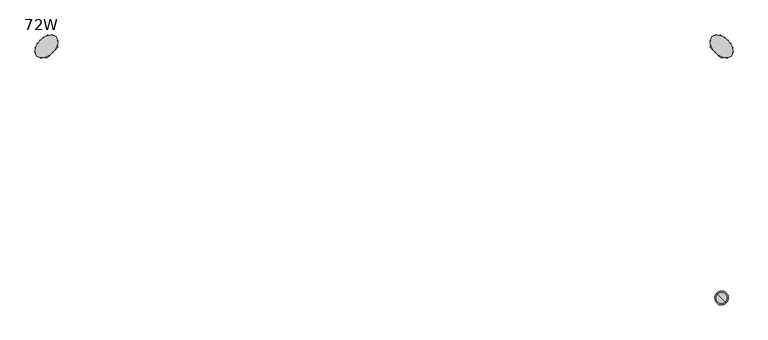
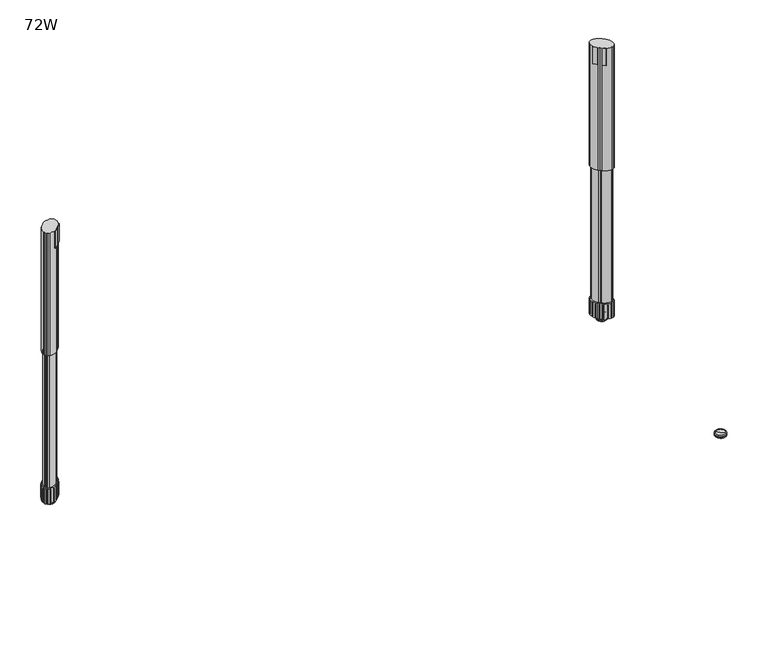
"""IFC4 building model written with IfcOpenShell, lengths in millimetres: furniture geometry, SmithSystem_AM_Table_Education_Interchange_Activity_30D : 72W."""

from ifc_helpers import new_model, si_unit, point, frame, frame_2d, origin, origin_with_axes, place, context, project, spatial, polyline, circle_curve, ellipse_curve, trimmed, segment, composite_curve, outline, extrude, source, transform, mapped, element, save
from ifc_brep_helpers import plane_surface, cylinder_surface, revolved_surface, advanced_brep


def furniture_72w_ccfdfc9f(model_context):
    return source(origin(), model_context, "Body", "SolidModel", [
        advanced_brep(
        [(1787.5381508, 712.8668163, 4.0499223), (1766.6815501, 692.0102156, 4.0499223), (1777.1098504, 702.4385159, 4.0499223), (1789.334202, 714.6628675, 6.5899223), (1764.8854989, 690.2141644, 6.5899223), (1789.334202, 714.6628675, 10.1679691), (1764.8854989, 690.2141644, 10.1679691), (1787.5381508, 712.8668163, 12.7079691), (1766.6815501, 692.0102156, 12.7079691), (1777.1098504, 702.4385159, 12.7079691)],
        [
            (0, 1, circle_curve(frame((1777.1098504, 702.4385159, 4.0499223), z_axis=(0.0, 0.0, -1.0), x_axis=(-0.7071067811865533, -0.7071067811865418, 0.0)), 14.7478438)),
            (1, 2),
            (2, 0),
            (1, 0, circle_curve(frame((1777.1098504, 702.4385159, 4.0499223), z_axis=(0.0, 0.0, -1.0), x_axis=(-0.7071067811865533, -0.7071067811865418, 0.0)), 14.7478438)),
            (3, 4, circle_curve(frame((1777.1098504, 702.4385159, 6.5899223), z_axis=(0.0, 0.0, -1.0), x_axis=(-0.7071067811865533, -0.7071067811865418, 0.0)), 17.2878438)),
            (4, 1, circle_curve(frame((1766.6815501, 692.0102156, 6.5899223), z_axis=(0.7071067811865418, -0.7071067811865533, 0.0), x_axis=(-0.7071067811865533, -0.7071067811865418, 0.0)), 2.54)),
            (0, 3, circle_curve(frame((1787.5381508, 712.8668163, 6.5899223), z_axis=(0.7071067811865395, -0.7071067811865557, 0.0), x_axis=(0.7071067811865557, 0.7071067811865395, 0.0)), 2.54)),
            (4, 3, circle_curve(frame((1777.1098504, 702.4385159, 6.5899223), z_axis=(0.0, 0.0, -1.0), x_axis=(-0.7071067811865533, -0.7071067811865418, 0.0)), 17.2878438)),
            (5, 6, circle_curve(frame((1777.1098504, 702.4385159, 10.1679691), z_axis=(0.0, 0.0, -1.0), x_axis=(-0.7071067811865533, -0.7071067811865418, 0.0)), 17.2878438)),
            (6, 4),
            (3, 5),
            (6, 5, circle_curve(frame((1777.1098504, 702.4385159, 10.1679691), z_axis=(0.0, 0.0, -1.0), x_axis=(-0.7071067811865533, -0.7071067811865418, 0.0)), 17.2878438)),
            (7, 8, circle_curve(frame((1777.1098504, 702.4385159, 12.7079691), z_axis=(0.0, 0.0, -1.0), x_axis=(-0.7071067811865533, -0.7071067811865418, 0.0)), 14.7478438)),
            (8, 6, circle_curve(frame((1766.6815501, 692.0102156, 10.1679691), z_axis=(0.7071067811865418, -0.7071067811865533, 0.0), x_axis=(-0.7071067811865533, -0.7071067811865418, 0.0)), 2.54)),
            (5, 7, circle_curve(frame((1787.5381508, 712.8668163, 10.1679691), z_axis=(0.7071067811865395, -0.7071067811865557, 0.0), x_axis=(0.7071067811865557, 0.7071067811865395, 0.0)), 2.54)),
            (8, 7, circle_curve(frame((1777.1098504, 702.4385159, 12.7079691), z_axis=(0.0, 0.0, -1.0), x_axis=(-0.7071067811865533, -0.7071067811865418, 0.0)), 14.7478438)),
            (9, 8),
            (7, 9),
        ],
        [
            plane_surface(frame((1777.1098504, 702.4385159, 4.0499223), z_axis=(0.0, 0.0, -1.0), x_axis=(-0.7071067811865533, -0.7071067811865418, 0.0))),
            revolved_surface(trimmed(ellipse_curve(frame((1766.6815501, 692.0102156, 6.5899223), z_axis=(-0.7071067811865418, 0.7071067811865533, 0.0), x_axis=(-0.7071067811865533, -0.7071067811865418, 0.0)), 2.54, 2.54), [point((1766.6815501, 692.0102156, 4.0499223))], [point((1764.8854989, 690.2141644, 6.5899223))], True, "CARTESIAN"), (1777.1098504, 702.4385159, 3.1355675), (0.0, 0.0, 1.0)),
            cylinder_surface(frame((1777.1098504, 702.4385159, 3.1355675), z_axis=(0.0, 0.0, 1.0), x_axis=(-0.7071067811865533, -0.7071067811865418, 0.0)), 17.2878438),
            revolved_surface(trimmed(ellipse_curve(frame((1766.6815501, 692.0102156, 10.1679691), z_axis=(-0.7071067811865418, 0.7071067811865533, 0.0), x_axis=(-0.7071067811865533, -0.7071067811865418, 0.0)), 2.54, 2.54), [point((1764.8854989, 690.2141644, 10.1679691))], [point((1766.6815501, 692.0102156, 12.7079691))], True, "CARTESIAN"), (1777.1098504, 702.4385159, 3.1355675), (0.0, 0.0, 1.0)),
            plane_surface(frame((1777.1098504, 702.4385159, 12.7079691), z_axis=(0.0, 0.0, 1.0), x_axis=(-0.7071067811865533, -0.7071067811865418, 0.0))),
        ],
        [
            (0, [[1, 2, 3]]),
            (0, [[4, -3, -2]]),
            (1, [[5, 6, -1, 7]]),
            (1, [[8, -7, -4, -6]]),
            (2, [[9, 10, -5, 11]]),
            (2, [[12, -11, -8, -10]]),
            (3, [[13, 14, -9, 15]]),
            (3, [[16, -15, -12, -14]]),
            (4, [[17, -13, 18]]),
            (4, [[-18, -16, -17]]),
        ],
    ),
        extrude(outline(composite_curve([segment(trimmed(circle_curve(frame_2d((1781.2964298, 713.8093002)), 32.5855406), [point((1758.2549731, 690.7678435))], [point((1748.9537769, 717.7804787))], False, "CARTESIAN"), True, "CONTINUOUS"), segment(trimmed(circle_curve(frame_2d((1768.4817209, 715.3827486)), 19.6745954), [point((1748.9537769, 717.7804787))], [point((1750.3137305, 722.9334989))], False, "CARTESIAN"), True, "CONTINUOUS"), segment(trimmed(circle_curve(frame_2d((1758.5793536, 719.4982452)), 8.9510611), [point((1750.3137305, 722.9334989))], [point((1752.2499976, 725.8276012))], False, "CARTESIAN"), True, "CONTINUOUS"), segment(polyline([(1752.2499976, 725.8276012), (1752.9853814, 726.5629849), (1753.7207652, 727.2983687)]), True, "CONTINUOUS"), segment(trimmed(circle_curve(frame_2d((1760.0501212, 720.9690127)), 8.9510611), [point((1753.7207652, 727.2983687))], [point((1756.6148675, 729.2346359))], False, "CARTESIAN"), True, "CONTINUOUS"), segment(trimmed(circle_curve(frame_2d((1764.1656177, 711.0666455)), 19.6745954), [point((1756.6148675, 729.2346359))], [point((1761.7678877, 730.5945895))], False, "CARTESIAN"), True, "CONTINUOUS"), segment(trimmed(circle_curve(frame_2d((1765.7390661, 698.2519365)), 32.5855406), [point((1761.7678877, 730.5945895))], [point((1788.7805229, 721.2933933))], False, "CARTESIAN"), True, "CONTINUOUS"), segment(polyline([(1788.7805229, 721.2933933), (1792.3726253, 717.7012908), (1795.9647278, 714.1091884)]), True, "CONTINUOUS"), segment(trimmed(circle_curve(frame_2d((1772.923271, 691.0677316)), 32.5855406), [point((1795.9647278, 714.1091884))], [point((1805.265924, 687.0965532))], False, "CARTESIAN"), True, "CONTINUOUS"), segment(trimmed(circle_curve(frame_2d((1785.73798, 689.4942832)), 19.6745954), [point((1805.265924, 687.0965532))], [point((1803.9059704, 681.943533))], False, "CARTESIAN"), True, "CONTINUOUS"), segment(trimmed(circle_curve(frame_2d((1795.6403472, 685.3787867)), 8.9510611), [point((1803.9059704, 681.943533))], [point((1801.9697032, 679.0494307))], False, "CARTESIAN"), True, "CONTINUOUS"), segment(polyline([(1801.9697032, 679.0494307), (1801.2343195, 678.3140469), (1800.4989357, 677.5786631)]), True, "CONTINUOUS"), segment(trimmed(circle_curve(frame_2d((1794.1695797, 683.9080191)), 8.9510611), [point((1800.4989357, 677.5786631))], [point((1797.6048334, 675.6423959))], False, "CARTESIAN"), True, "CONTINUOUS"), segment(trimmed(circle_curve(frame_2d((1790.0540831, 693.8103864)), 19.6745954), [point((1797.6048334, 675.6423959))], [point((1792.4518132, 674.2824424))], False, "CARTESIAN"), True, "CONTINUOUS"), segment(trimmed(circle_curve(frame_2d((1788.4806347, 706.6250953)), 32.5855406), [point((1792.4518132, 674.2824424))], [point((1765.439178, 683.5836386))], False, "CARTESIAN"), True, "CONTINUOUS"), segment(polyline([(1765.439178, 683.5836386), (1761.8470756, 687.175741), (1758.2549731, 690.7678435)]), True, "CONTINUOUS")], self_intersect=False)), frame((0.0, 0.0, 12.7079691), z_axis=(0.0, 0.0, 1.0), x_axis=(1.0, 0.0, 0.0)), (0.0, 0.0, 1.0), 50.791766),
        extrude(outline(composite_curve([segment(trimmed(circle_curve(frame_2d((1777.1098504, 702.4385159)), 15.24), [point((1787.8861578, 691.6622086))], [point((1766.3335431, 713.2148233))], False, "CARTESIAN"), True, "CONTINUOUS"), segment(trimmed(circle_curve(frame_2d((1777.1098504, 702.4385159)), 15.24), [point((1766.3335431, 713.2148233))], [point((1787.8861578, 691.6622086))], False, "CARTESIAN"), True, "CONTINUOUS")], self_intersect=False)), origin_with_axes(), (0.0, 0.0, 1.0), 4.0499223),
        extrude(outline(composite_curve([segment(polyline([(1793.2706509, 716.8032652), (1792.3726253, 717.7012908), (1791.4745997, 718.5993164)]), True, "CONTINUOUS"), segment(trimmed(circle_curve(frame_2d((1792.3726253, 717.7012908)), 1.27), [point((1791.4745997, 718.5993164))], [point((1793.2706509, 716.8032652))], False, "CARTESIAN"), True, "CONTINUOUS")], self_intersect=False)), frame((0.0, 0.0, 16.2275456), z_axis=(0.0, 0.0, 1.0), x_axis=(1.0, 0.0, 0.0)), (0.0, 0.0, 1.0), 43.7457423),
        extrude(outline(composite_curve([segment(polyline([(1800.3099845, 677.4423306), (1801.2080101, 678.3403563), (1802.1060357, 679.2383819)]), True, "CONTINUOUS"), segment(trimmed(circle_curve(frame_2d((1801.2080101, 678.3403563)), 1.27), [point((1802.1060357, 679.2383819))], [point((1800.3099845, 677.4423306))], False, "CARTESIAN"), True, "CONTINUOUS")], self_intersect=False)), frame((0.0, 0.0, 16.2275456), z_axis=(0.0, 0.0, 1.0), x_axis=(1.0, 0.0, 0.0)), (0.0, 0.0, 1.0), 43.7457423),
        extrude(outline(composite_curve([segment(trimmed(circle_curve(frame_2d((1753.0116908, 726.5366756)), 1.27), [point((1752.1136652, 725.63865))], [point((1753.9097164, 727.4347012))], False, "CARTESIAN"), True, "CONTINUOUS"), segment(polyline([(1753.9097164, 727.4347012), (1753.0116908, 726.5366756), (1752.1136652, 725.63865)]), True, "CONTINUOUS")], self_intersect=False)), frame((0.0, 0.0, 16.2275456), z_axis=(0.0, 0.0, 1.0), x_axis=(1.0, 0.0, 0.0)), (0.0, 0.0, 1.0), 43.7457423),
        extrude(outline(composite_curve([segment(trimmed(circle_curve(frame_2d((1762.8779787, 730.6574596)), 1.27), [point((1761.6120338, 730.5560515))], [point((1764.1439236, 730.7588676))], False, "CARTESIAN"), True, "CONTINUOUS"), segment(polyline([(1764.1439236, 730.7588676), (1762.8779787, 730.6574596), (1761.6120338, 730.5560515)]), True, "CONTINUOUS")], self_intersect=False)), frame((0.0, 0.0, 16.2275456), z_axis=(0.0, 0.0, 1.0), x_axis=(1.0, 0.0, 0.0)), (0.0, 0.0, 1.0), 43.7457423),
        extrude(outline(composite_curve([segment(trimmed(circle_curve(frame_2d((1773.9209477, 729.7234059)), 1.27), [point((1772.6909581, 730.039674))], [point((1775.1509373, 729.4071377))], False, "CARTESIAN"), True, "CONTINUOUS"), segment(polyline([(1775.1509373, 729.4071377), (1773.9209477, 729.7234059), (1772.6909581, 730.039674)]), True, "CONTINUOUS")], self_intersect=False)), frame((0.0, 0.0, 16.2275456), z_axis=(0.0, 0.0, 1.0), x_axis=(1.0, 0.0, 0.0)), (0.0, 0.0, 1.0), 43.7457423),
        extrude(outline(composite_curve([segment(trimmed(circle_curve(frame_2d((1784.0770478, 725.1239568)), 1.27), [point((1783.0294057, 725.8418329))], [point((1785.1246899, 724.4060807))], False, "CARTESIAN"), True, "CONTINUOUS"), segment(polyline([(1785.1246899, 724.4060807), (1784.0770478, 725.1239568), (1783.0294057, 725.8418329)]), True, "CONTINUOUS")], self_intersect=False)), frame((0.0, 0.0, 16.2275456), z_axis=(0.0, 0.0, 1.0), x_axis=(1.0, 0.0, 0.0)), (0.0, 0.0, 1.0), 43.7457423),
        extrude(outline(composite_curve([segment(polyline([(1805.227386, 686.9406993), (1805.3287941, 688.2066442), (1805.4302021, 689.4725891)]), True, "CONTINUOUS"), segment(trimmed(circle_curve(frame_2d((1805.3287941, 688.2066442)), 1.27), [point((1805.4302021, 689.4725891))], [point((1805.227386, 686.9406993))], False, "CARTESIAN"), True, "CONTINUOUS")], self_intersect=False)), frame((0.0, 0.0, 16.2275456), z_axis=(0.0, 0.0, 1.0), x_axis=(1.0, 0.0, 0.0)), (0.0, 0.0, 1.0), 43.7457423),
        extrude(outline(composite_curve([segment(polyline([(1804.7110085, 698.0196236), (1804.3947404, 699.2496132), (1804.0784722, 700.4796028)]), True, "CONTINUOUS"), segment(trimmed(circle_curve(frame_2d((1804.3947404, 699.2496132)), 1.27), [point((1804.0784722, 700.4796028))], [point((1804.7110085, 698.0196236))], False, "CARTESIAN"), True, "CONTINUOUS")], self_intersect=False)), frame((0.0, 0.0, 16.2275456), z_axis=(0.0, 0.0, 1.0), x_axis=(1.0, 0.0, 0.0)), (0.0, 0.0, 1.0), 43.7457423),
        extrude(outline(composite_curve([segment(polyline([(1800.5131674, 708.3580712), (1799.7952913, 709.4057133), (1799.0774152, 710.4533554)]), True, "CONTINUOUS"), segment(trimmed(circle_curve(frame_2d((1799.7952913, 709.4057133)), 1.27), [point((1799.0774152, 710.4533554))], [point((1800.5131674, 708.3580712))], False, "CARTESIAN"), True, "CONTINUOUS")], self_intersect=False)), frame((0.0, 0.0, 16.2275456), z_axis=(0.0, 0.0, 1.0), x_axis=(1.0, 0.0, 0.0)), (0.0, 0.0, 1.0), 43.7457423),
        extrude(outline(composite_curve([segment(trimmed(circle_curve(frame_2d((1761.8470756, 687.175741)), 1.27), [point((1762.7451012, 686.2777154))], [point((1760.9490499, 688.0737667))], False, "CARTESIAN"), True, "CONTINUOUS"), segment(polyline([(1760.9490499, 688.0737667), (1761.8470756, 687.175741), (1762.7451012, 686.2777154)]), True, "CONTINUOUS")], self_intersect=False)), frame((0.0, 0.0, 16.2275456), z_axis=(0.0, 0.0, 1.0), x_axis=(1.0, 0.0, 0.0)), (0.0, 0.0, 1.0), 43.7457423),
        extrude(outline(composite_curve([segment(polyline([(1748.9923149, 717.9363325), (1748.8909068, 716.6703877), (1748.7894988, 715.4044428)]), True, "CONTINUOUS"), segment(trimmed(circle_curve(frame_2d((1748.8909068, 716.6703877)), 1.27), [point((1748.7894988, 715.4044428))], [point((1748.9923149, 717.9363325))], False, "CARTESIAN"), True, "CONTINUOUS")], self_intersect=False)), frame((0.0, 0.0, 16.2275456), z_axis=(0.0, 0.0, 1.0), x_axis=(1.0, 0.0, 0.0)), (0.0, 0.0, 1.0), 43.7457423),
        extrude(outline(composite_curve([segment(polyline([(1749.5086924, 706.8574083), (1749.8249605, 705.6274187), (1750.1412287, 704.397429)]), True, "CONTINUOUS"), segment(trimmed(circle_curve(frame_2d((1749.8249605, 705.6274187)), 1.27), [point((1750.1412287, 704.397429))], [point((1749.5086924, 706.8574083))], False, "CARTESIAN"), True, "CONTINUOUS")], self_intersect=False)), frame((0.0, 0.0, 16.2275456), z_axis=(0.0, 0.0, 1.0), x_axis=(1.0, 0.0, 0.0)), (0.0, 0.0, 1.0), 43.7457423),
        extrude(outline(composite_curve([segment(polyline([(1753.7065335, 696.5189606), (1754.4244096, 695.4713185), (1755.1422857, 694.4236765)]), True, "CONTINUOUS"), segment(trimmed(circle_curve(frame_2d((1754.4244096, 695.4713185)), 1.27), [point((1755.1422857, 694.4236765))], [point((1753.7065335, 696.5189606))], False, "CARTESIAN"), True, "CONTINUOUS")], self_intersect=False)), frame((0.0, 0.0, 16.2275456), z_axis=(0.0, 0.0, 1.0), x_axis=(1.0, 0.0, 0.0)), (0.0, 0.0, 1.0), 43.7457423),
        extrude(outline(composite_curve([segment(trimmed(circle_curve(frame_2d((1791.3417222, 674.2195723)), 1.27), [point((1792.607667, 674.3209803))], [point((1790.0757773, 674.1181643))], False, "CARTESIAN"), True, "CONTINUOUS"), segment(polyline([(1790.0757773, 674.1181643), (1791.3417222, 674.2195723), (1792.607667, 674.3209803)]), True, "CONTINUOUS")], self_intersect=False)), frame((0.0, 0.0, 16.2275456), z_axis=(0.0, 0.0, 1.0), x_axis=(1.0, 0.0, 0.0)), (0.0, 0.0, 1.0), 43.7457423),
        extrude(outline(composite_curve([segment(trimmed(circle_curve(frame_2d((1780.2987532, 675.153626)), 1.27), [point((1781.5287428, 674.8373578))], [point((1779.0687635, 675.4698941))], False, "CARTESIAN"), True, "CONTINUOUS"), segment(polyline([(1779.0687635, 675.4698941), (1780.2987532, 675.153626), (1781.5287428, 674.8373578)]), True, "CONTINUOUS")], self_intersect=False)), frame((0.0, 0.0, 16.2275456), z_axis=(0.0, 0.0, 1.0), x_axis=(1.0, 0.0, 0.0)), (0.0, 0.0, 1.0), 43.7457423),
        extrude(outline(composite_curve([segment(trimmed(circle_curve(frame_2d((1770.1426531, 679.7530751)), 1.27), [point((1771.1902951, 679.035199))], [point((1769.095011, 680.4709511))], False, "CARTESIAN"), True, "CONTINUOUS"), segment(polyline([(1769.095011, 680.4709511), (1770.1426531, 679.7530751), (1771.1902951, 679.035199)]), True, "CONTINUOUS")], self_intersect=False)), frame((0.0, 0.0, 16.2275456), z_axis=(0.0, 0.0, 1.0), x_axis=(1.0, 0.0, 0.0)), (0.0, 0.0, 1.0), 43.7457423),
        extrude(outline(composite_curve([segment(polyline([(1768.1332548, 686.2777154), (1764.5411524, 689.8698179), (1760.9490499, 693.4619203)]), True, "CONTINUOUS"), segment(trimmed(circle_curve(frame_2d((1781.2964298, 713.8093002)), 28.7755406), [point((1760.9490499, 693.4619203))], [point((1752.7353777, 717.3161565))], False, "CARTESIAN"), True, "CONTINUOUS"), segment(trimmed(circle_curve(frame_2d((1768.4817209, 715.3827486)), 15.8645954), [point((1752.7353777, 717.3161565))], [point((1753.8319753, 721.4712905))], False, "CARTESIAN"), True, "CONTINUOUS"), segment(trimmed(circle_curve(frame_2d((1758.5793536, 719.4982452)), 5.1410611), [point((1753.8319753, 721.4712905))], [point((1754.9440745, 723.1335243))], False, "CARTESIAN"), True, "CONTINUOUS"), segment(polyline([(1754.9440745, 723.1335243), (1755.6794583, 723.8689081), (1756.414842, 724.6042919)]), True, "CONTINUOUS"), segment(trimmed(circle_curve(frame_2d((1760.0501212, 720.9690127)), 5.1410611), [point((1756.414842, 724.6042919))], [point((1758.0770759, 725.7163911))], False, "CARTESIAN"), True, "CONTINUOUS"), segment(trimmed(circle_curve(frame_2d((1764.1656177, 711.0666455)), 15.8645954), [point((1758.0770759, 725.7163911))], [point((1762.2322099, 726.8129886))], False, "CARTESIAN"), True, "CONTINUOUS"), segment(trimmed(circle_curve(frame_2d((1765.7390661, 698.2519365)), 28.7755406), [point((1762.2322099, 726.8129886))], [point((1786.086446, 718.5993164))], False, "CARTESIAN"), True, "CONTINUOUS"), segment(polyline([(1786.086446, 718.5993164), (1789.6785485, 715.007214), (1793.2706509, 711.4151115)]), True, "CONTINUOUS"), segment(trimmed(circle_curve(frame_2d((1772.923271, 691.0677316)), 28.7755406), [point((1793.2706509, 711.4151115))], [point((1801.4843231, 687.5608754))], False, "CARTESIAN"), True, "CONTINUOUS"), segment(trimmed(circle_curve(frame_2d((1785.73798, 689.4942832)), 15.8645954), [point((1801.4843231, 687.5608754))], [point((1800.3877256, 683.4057414))], False, "CARTESIAN"), True, "CONTINUOUS"), segment(trimmed(circle_curve(frame_2d((1795.6403472, 685.3787867)), 5.1410611), [point((1800.3877256, 683.4057414))], [point((1799.2756264, 681.7435075))], False, "CARTESIAN"), True, "CONTINUOUS"), segment(polyline([(1799.2756264, 681.7435075), (1798.5402426, 681.0081238), (1797.8048588, 680.27274)]), True, "CONTINUOUS"), segment(trimmed(circle_curve(frame_2d((1794.1695797, 683.9080191)), 5.1410611), [point((1797.8048588, 680.27274))], [point((1796.142625, 679.1606408))], False, "CARTESIAN"), True, "CONTINUOUS"), segment(trimmed(circle_curve(frame_2d((1790.0540831, 693.8103864)), 15.8645954), [point((1796.142625, 679.1606408))], [point((1791.987491, 678.0640432))], False, "CARTESIAN"), True, "CONTINUOUS"), segment(trimmed(circle_curve(frame_2d((1788.4806347, 706.6250953)), 28.7755406), [point((1791.987491, 678.0640432))], [point((1768.1332548, 686.2777154))], False, "CARTESIAN"), True, "CONTINUOUS")], self_intersect=False)), frame((0.0, 0.0, 63.4997351), z_axis=(0.0, 0.0, 1.0), x_axis=(1.0, 0.0, 0.0)), (0.0, 0.0, 1.0), 440.4486802),
        extrude(outline(composite_curve([segment(polyline([(1788.7805229, 721.2933933), (1792.3726253, 717.7012908), (1795.9647278, 714.1091884)]), True, "CONTINUOUS"), segment(trimmed(circle_curve(frame_2d((1772.923271, 691.0677316)), 32.5855406), [point((1795.9647278, 714.1091884))], [point((1805.265924, 687.0965532))], False, "CARTESIAN"), True, "CONTINUOUS"), segment(trimmed(circle_curve(frame_2d((1785.73798, 689.4942832)), 19.6745954), [point((1805.265924, 687.0965532))], [point((1803.9059704, 681.943533))], False, "CARTESIAN"), True, "CONTINUOUS"), segment(trimmed(circle_curve(frame_2d((1795.6403472, 685.3787867)), 8.9510611), [point((1803.9059704, 681.943533))], [point((1801.9697032, 679.0494307))], False, "CARTESIAN"), True, "CONTINUOUS"), segment(polyline([(1801.9697032, 679.0494307), (1801.2343195, 678.3140469), (1800.4989357, 677.5786631)]), True, "CONTINUOUS"), segment(trimmed(circle_curve(frame_2d((1794.1695797, 683.9080191)), 8.9510611), [point((1800.4989357, 677.5786631))], [point((1797.6048334, 675.6423959))], False, "CARTESIAN"), True, "CONTINUOUS"), segment(trimmed(circle_curve(frame_2d((1790.0540831, 693.8103864)), 19.6745954), [point((1797.6048334, 675.6423959))], [point((1792.4518132, 674.2824424))], False, "CARTESIAN"), True, "CONTINUOUS"), segment(trimmed(circle_curve(frame_2d((1788.4806347, 706.6250953)), 32.5855406), [point((1792.4518132, 674.2824424))], [point((1765.439178, 683.5836386))], False, "CARTESIAN"), True, "CONTINUOUS"), segment(polyline([(1765.439178, 683.5836386), (1761.8470756, 687.175741), (1758.2549731, 690.7678435)]), True, "CONTINUOUS"), segment(trimmed(circle_curve(frame_2d((1781.2964298, 713.8093002)), 32.5855406), [point((1758.2549731, 690.7678435))], [point((1748.9537769, 717.7804787))], False, "CARTESIAN"), True, "CONTINUOUS"), segment(trimmed(circle_curve(frame_2d((1768.4817209, 715.3827486)), 19.6745954), [point((1748.9537769, 717.7804787))], [point((1750.3137305, 722.9334989))], False, "CARTESIAN"), True, "CONTINUOUS"), segment(trimmed(circle_curve(frame_2d((1758.5793536, 719.4982452)), 8.9510611), [point((1750.3137305, 722.9334989))], [point((1752.2499976, 725.8276012))], False, "CARTESIAN"), True, "CONTINUOUS"), segment(polyline([(1752.2499976, 725.8276012), (1752.9853814, 726.5629849), (1753.7207652, 727.2983687)]), True, "CONTINUOUS"), segment(trimmed(circle_curve(frame_2d((1760.0501212, 720.9690127)), 8.9510611), [point((1753.7207652, 727.2983687))], [point((1756.6148675, 729.2346359))], False, "CARTESIAN"), True, "CONTINUOUS"), segment(trimmed(circle_curve(frame_2d((1764.1656177, 711.0666455)), 19.6745954), [point((1756.6148675, 729.2346359))], [point((1761.7678877, 730.5945895))], False, "CARTESIAN"), True, "CONTINUOUS"), segment(trimmed(circle_curve(frame_2d((1765.7390661, 698.2519365)), 32.5855406), [point((1761.7678877, 730.5945895))], [point((1788.7805229, 721.2933933))], False, "CARTESIAN"), True, "CONTINUOUS")], self_intersect=False)), frame((0.0, 0.0, 503.9484153), z_axis=(0.0, 0.0, 1.0), x_axis=(1.0, 0.0, 0.0)), (0.0, 0.0, 1.0), 405.2764888),
        extrude(outline(polyline([(1778.406676, 676.8390473), (1775.0618157, 673.4941871), (1748.2201876, 700.3358152), (1751.5650478, 703.6806755), (1778.406676, 676.8390473)])), frame((0.0, 0.0, 853.198382), z_axis=(0.0, 0.0, 1.0), x_axis=(1.0, 0.0, 0.0)), (0.0, 0.0, 1.0), 56.0265221),
        advanced_brep(
        [(40.9483, 712.8668163, 4.0499223), (51.3766004, 702.4385159, 4.0499223), (61.8049007, 692.0102156, 4.0499223), (39.1522488, 714.6628675, 6.5899223), (63.6009519, 690.2141644, 6.5899223), (39.1522488, 714.6628675, 10.1679691), (63.6009519, 690.2141644, 10.1679691), (40.9483, 712.8668163, 12.7079691), (61.8049007, 692.0102156, 12.7079691), (51.3766004, 702.4385159, 12.7079691)],
        [
            (0, 1),
            (1, 2),
            (2, 0, circle_curve(frame((51.3766004, 702.4385159, 4.0499223), z_axis=(0.0, 0.0, -1.0), x_axis=(0.7071067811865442, -0.7071067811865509, 0.0)), 14.7478438)),
            (0, 2, circle_curve(frame((51.3766004, 702.4385159, 4.0499223), z_axis=(0.0, 0.0, -1.0), x_axis=(0.7071067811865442, -0.7071067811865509, 0.0)), 14.7478438)),
            (3, 0, circle_curve(frame((40.9483, 712.8668163, 6.5899223), z_axis=(-0.7071067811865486, -0.7071067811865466, 0.0), x_axis=(-0.7071067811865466, 0.7071067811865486, 0.0)), 2.54)),
            (2, 4, circle_curve(frame((61.8049007, 692.0102156, 6.5899223), z_axis=(-0.7071067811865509, -0.7071067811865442, 0.0), x_axis=(0.7071067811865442, -0.7071067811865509, 0.0)), 2.54)),
            (4, 3, circle_curve(frame((51.3766004, 702.4385159, 6.5899223), z_axis=(0.0, 0.0, -1.0), x_axis=(0.7071067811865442, -0.7071067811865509, 0.0)), 17.2878438)),
            (3, 4, circle_curve(frame((51.3766004, 702.4385159, 6.5899223), z_axis=(0.0, 0.0, -1.0), x_axis=(0.7071067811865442, -0.7071067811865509, 0.0)), 17.2878438)),
            (5, 3),
            (4, 6),
            (6, 5, circle_curve(frame((51.3766004, 702.4385159, 10.1679691), z_axis=(0.0, 0.0, -1.0), x_axis=(0.7071067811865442, -0.7071067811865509, 0.0)), 17.2878438)),
            (5, 6, circle_curve(frame((51.3766004, 702.4385159, 10.1679691), z_axis=(0.0, 0.0, -1.0), x_axis=(0.7071067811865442, -0.7071067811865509, 0.0)), 17.2878438)),
            (7, 5, circle_curve(frame((40.9483, 712.8668163, 10.1679691), z_axis=(-0.7071067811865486, -0.7071067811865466, 0.0), x_axis=(-0.7071067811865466, 0.7071067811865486, 0.0)), 2.54)),
            (6, 8, circle_curve(frame((61.8049007, 692.0102156, 10.1679691), z_axis=(-0.7071067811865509, -0.7071067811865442, 0.0), x_axis=(0.7071067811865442, -0.7071067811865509, 0.0)), 2.54)),
            (8, 7, circle_curve(frame((51.3766004, 702.4385159, 12.7079691), z_axis=(0.0, 0.0, -1.0), x_axis=(0.7071067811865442, -0.7071067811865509, 0.0)), 14.7478438)),
            (7, 8, circle_curve(frame((51.3766004, 702.4385159, 12.7079691), z_axis=(0.0, 0.0, -1.0), x_axis=(0.7071067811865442, -0.7071067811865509, 0.0)), 14.7478438)),
            (9, 7),
            (8, 9),
        ],
        [
            plane_surface(frame((51.3766004, 702.4385159, 4.0499223), z_axis=(0.0, 0.0, -1.0), x_axis=(0.7071067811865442, -0.7071067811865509, 0.0))),
            revolved_surface(trimmed(ellipse_curve(frame((61.8049007, 692.0102156, 6.5899223), z_axis=(-0.7071067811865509, -0.7071067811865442, 0.0), x_axis=(0.7071067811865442, -0.7071067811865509, 0.0)), 2.54, 2.54), [point((61.8049007, 692.0102156, 4.0499223))], [point((63.6009519, 690.2141644, 6.5899223))], True, "CARTESIAN"), (51.3766004, 702.4385159, 3.1355675), (0.0, 0.0, 1.0)),
            cylinder_surface(frame((51.3766004, 702.4385159, 3.1355675), z_axis=(0.0, 0.0, 1.0), x_axis=(0.7071067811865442, -0.7071067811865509, 0.0)), 17.2878438),
            revolved_surface(trimmed(ellipse_curve(frame((61.8049007, 692.0102156, 10.1679691), z_axis=(-0.7071067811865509, -0.7071067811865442, 0.0), x_axis=(0.7071067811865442, -0.7071067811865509, 0.0)), 2.54, 2.54), [point((63.6009519, 690.2141644, 10.1679691))], [point((61.8049007, 692.0102156, 12.7079691))], True, "CARTESIAN"), (51.3766004, 702.4385159, 3.1355675), (0.0, 0.0, 1.0)),
            plane_surface(frame((51.3766004, 702.4385159, 12.7079691), z_axis=(0.0, 0.0, 1.0), x_axis=(0.7071067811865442, -0.7071067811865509, 0.0))),
        ],
        [
            (0, [[1, 2, 3]]),
            (0, [[-2, -1, 4]]),
            (1, [[5, -3, 6, 7]]),
            (1, [[-6, -4, -5, 8]]),
            (2, [[9, -7, 10, 11]]),
            (2, [[-10, -8, -9, 12]]),
            (3, [[13, -11, 14, 15]]),
            (3, [[-14, -12, -13, 16]]),
            (4, [[17, -15, 18]]),
            (4, [[-18, -16, -17]]),
        ],
    ),
        extrude(outline(composite_curve([segment(polyline([(70.2314777, 690.7678435), (66.6393752, 687.175741), (63.0472728, 683.5836386)]), True, "CONTINUOUS"), segment(trimmed(circle_curve(frame_2d((40.0058161, 706.6250953)), 32.5855406), [point((63.0472728, 683.5836386))], [point((36.0346376, 674.2824424))], False, "CARTESIAN"), True, "CONTINUOUS"), segment(trimmed(circle_curve(frame_2d((38.4323677, 693.8103864)), 19.6745954), [point((36.0346376, 674.2824424))], [point((30.8816174, 675.6423959))], False, "CARTESIAN"), True, "CONTINUOUS"), segment(trimmed(circle_curve(frame_2d((34.3168711, 683.9080191)), 8.9510611), [point((30.8816174, 675.6423959))], [point((27.9875151, 677.5786631))], False, "CARTESIAN"), True, "CONTINUOUS"), segment(polyline([(27.9875151, 677.5786631), (27.2521313, 678.3140469), (26.5167476, 679.0494307)]), True, "CONTINUOUS"), segment(trimmed(circle_curve(frame_2d((32.8461036, 685.3787867)), 8.9510611), [point((26.5167476, 679.0494307))], [point((24.5804804, 681.943533))], False, "CARTESIAN"), True, "CONTINUOUS"), segment(trimmed(circle_curve(frame_2d((42.7484708, 689.4942832)), 19.6745954), [point((24.5804804, 681.943533))], [point((23.2205268, 687.0965532))], False, "CARTESIAN"), True, "CONTINUOUS"), segment(trimmed(circle_curve(frame_2d((55.5631798, 691.0677316)), 32.5855406), [point((23.2205268, 687.0965532))], [point((32.521723, 714.1091884))], False, "CARTESIAN"), True, "CONTINUOUS"), segment(polyline([(32.521723, 714.1091884), (36.1138255, 717.7012908), (39.7059279, 721.2933933)]), True, "CONTINUOUS"), segment(trimmed(circle_curve(frame_2d((62.7473847, 698.2519365)), 32.5855406), [point((39.7059279, 721.2933933))], [point((66.7185631, 730.5945895))], False, "CARTESIAN"), True, "CONTINUOUS"), segment(trimmed(circle_curve(frame_2d((64.3208331, 711.0666455)), 19.6745954), [point((66.7185631, 730.5945895))], [point((71.8715833, 729.2346359))], False, "CARTESIAN"), True, "CONTINUOUS"), segment(trimmed(circle_curve(frame_2d((68.4363296, 720.9690127)), 8.9510611), [point((71.8715833, 729.2346359))], [point((74.7656856, 727.2983687))], False, "CARTESIAN"), True, "CONTINUOUS"), segment(polyline([(74.7656856, 727.2983687), (75.5010694, 726.5629849), (76.2364532, 725.8276012)]), True, "CONTINUOUS"), segment(trimmed(circle_curve(frame_2d((69.9070972, 719.4982452)), 8.9510611), [point((76.2364532, 725.8276012))], [point((78.1727203, 722.9334989))], False, "CARTESIAN"), True, "CONTINUOUS"), segment(trimmed(circle_curve(frame_2d((60.0047299, 715.3827486)), 19.6745954), [point((78.1727203, 722.9334989))], [point((79.5326739, 717.7804787))], False, "CARTESIAN"), True, "CONTINUOUS"), segment(trimmed(circle_curve(frame_2d((47.190021, 713.8093002)), 32.5855406), [point((79.5326739, 717.7804787))], [point((70.2314777, 690.7678435))], False, "CARTESIAN"), True, "CONTINUOUS")], self_intersect=False)), frame((0.0, 0.0, 12.7079691), z_axis=(0.0, 0.0, 1.0), x_axis=(1.0, 0.0, 0.0)), (0.0, 0.0, 1.0), 50.791766),
        extrude(outline(composite_curve([segment(trimmed(circle_curve(frame_2d((51.3766004, 702.4385159)), 15.24), [point((40.600293, 691.6622086))], [point((62.1529077, 713.2148233))], False, "CARTESIAN"), True, "CONTINUOUS"), segment(trimmed(circle_curve(frame_2d((51.3766004, 702.4385159)), 15.24), [point((62.1529077, 713.2148233))], [point((40.600293, 691.6622086))], False, "CARTESIAN"), True, "CONTINUOUS")], self_intersect=False)), origin_with_axes(), (0.0, 0.0, 1.0), 4.0499223),
        extrude(outline(composite_curve([segment(trimmed(circle_curve(frame_2d((36.1138255, 717.7012908)), 1.27), [point((35.2157999, 716.8032652))], [point((37.0118511, 718.5993164))], False, "CARTESIAN"), True, "CONTINUOUS"), segment(polyline([(37.0118511, 718.5993164), (36.1138255, 717.7012908), (35.2157999, 716.8032652)]), True, "CONTINUOUS")], self_intersect=False)), frame((0.0, 0.0, 16.2275456), z_axis=(0.0, 0.0, 1.0), x_axis=(1.0, 0.0, 0.0)), (0.0, 0.0, 1.0), 43.7457423),
        extrude(outline(composite_curve([segment(trimmed(circle_curve(frame_2d((27.2784407, 678.3403563)), 1.27), [point((28.1764663, 677.4423306))], [point((26.3804151, 679.2383819))], False, "CARTESIAN"), True, "CONTINUOUS"), segment(polyline([(26.3804151, 679.2383819), (27.2784407, 678.3403563), (28.1764663, 677.4423306)]), True, "CONTINUOUS")], self_intersect=False)), frame((0.0, 0.0, 16.2275456), z_axis=(0.0, 0.0, 1.0), x_axis=(1.0, 0.0, 0.0)), (0.0, 0.0, 1.0), 43.7457423),
        extrude(outline(composite_curve([segment(polyline([(76.3727856, 725.63865), (75.47476, 726.5366756), (74.5767344, 727.4347012)]), True, "CONTINUOUS"), segment(trimmed(circle_curve(frame_2d((75.47476, 726.5366756)), 1.27), [point((74.5767344, 727.4347012))], [point((76.3727856, 725.63865))], False, "CARTESIAN"), True, "CONTINUOUS")], self_intersect=False)), frame((0.0, 0.0, 16.2275456), z_axis=(0.0, 0.0, 1.0), x_axis=(1.0, 0.0, 0.0)), (0.0, 0.0, 1.0), 43.7457423),
        extrude(outline(composite_curve([segment(polyline([(66.874417, 730.5560515), (65.6084721, 730.6574596), (64.3425272, 730.7588676)]), True, "CONTINUOUS"), segment(trimmed(circle_curve(frame_2d((65.6084721, 730.6574596)), 1.27), [point((64.3425272, 730.7588676))], [point((66.874417, 730.5560515))], False, "CARTESIAN"), True, "CONTINUOUS")], self_intersect=False)), frame((0.0, 0.0, 16.2275456), z_axis=(0.0, 0.0, 1.0), x_axis=(1.0, 0.0, 0.0)), (0.0, 0.0, 1.0), 43.7457423),
        extrude(outline(composite_curve([segment(polyline([(55.7954927, 730.039674), (54.5655031, 729.7234059), (53.3355135, 729.4071377)]), True, "CONTINUOUS"), segment(trimmed(circle_curve(frame_2d((54.5655031, 729.7234059)), 1.27), [point((53.3355135, 729.4071377))], [point((55.7954927, 730.039674))], False, "CARTESIAN"), True, "CONTINUOUS")], self_intersect=False)), frame((0.0, 0.0, 16.2275456), z_axis=(0.0, 0.0, 1.0), x_axis=(1.0, 0.0, 0.0)), (0.0, 0.0, 1.0), 43.7457423),
        extrude(outline(composite_curve([segment(polyline([(45.4570451, 725.8418329), (44.409403, 725.1239568), (43.3617609, 724.4060807)]), True, "CONTINUOUS"), segment(trimmed(circle_curve(frame_2d((44.409403, 725.1239568)), 1.27), [point((43.3617609, 724.4060807))], [point((45.4570451, 725.8418329))], False, "CARTESIAN"), True, "CONTINUOUS")], self_intersect=False)), frame((0.0, 0.0, 16.2275456), z_axis=(0.0, 0.0, 1.0), x_axis=(1.0, 0.0, 0.0)), (0.0, 0.0, 1.0), 43.7457423),
        extrude(outline(composite_curve([segment(trimmed(circle_curve(frame_2d((23.1576567, 688.2066442)), 1.27), [point((23.2590648, 686.9406993))], [point((23.0562487, 689.4725891))], False, "CARTESIAN"), True, "CONTINUOUS"), segment(polyline([(23.0562487, 689.4725891), (23.1576567, 688.2066442), (23.2590648, 686.9406993)]), True, "CONTINUOUS")], self_intersect=False)), frame((0.0, 0.0, 16.2275456), z_axis=(0.0, 0.0, 1.0), x_axis=(1.0, 0.0, 0.0)), (0.0, 0.0, 1.0), 43.7457423),
        extrude(outline(composite_curve([segment(trimmed(circle_curve(frame_2d((24.0917104, 699.2496132)), 1.27), [point((23.7754423, 698.0196236))], [point((24.4079786, 700.4796028))], False, "CARTESIAN"), True, "CONTINUOUS"), segment(polyline([(24.4079786, 700.4796028), (24.0917104, 699.2496132), (23.7754423, 698.0196236)]), True, "CONTINUOUS")], self_intersect=False)), frame((0.0, 0.0, 16.2275456), z_axis=(0.0, 0.0, 1.0), x_axis=(1.0, 0.0, 0.0)), (0.0, 0.0, 1.0), 43.7457423),
        extrude(outline(composite_curve([segment(trimmed(circle_curve(frame_2d((28.6911595, 709.4057133)), 1.27), [point((27.9732834, 708.3580712))], [point((29.4090356, 710.4533554))], False, "CARTESIAN"), True, "CONTINUOUS"), segment(polyline([(29.4090356, 710.4533554), (28.6911595, 709.4057133), (27.9732834, 708.3580712)]), True, "CONTINUOUS")], self_intersect=False)), frame((0.0, 0.0, 16.2275456), z_axis=(0.0, 0.0, 1.0), x_axis=(1.0, 0.0, 0.0)), (0.0, 0.0, 1.0), 43.7457423),
        extrude(outline(composite_curve([segment(polyline([(65.7413496, 686.2777154), (66.6393752, 687.175741), (67.5374009, 688.0737667)]), True, "CONTINUOUS"), segment(trimmed(circle_curve(frame_2d((66.6393752, 687.175741)), 1.27), [point((67.5374009, 688.0737667))], [point((65.7413496, 686.2777154))], False, "CARTESIAN"), True, "CONTINUOUS")], self_intersect=False)), frame((0.0, 0.0, 16.2275456), z_axis=(0.0, 0.0, 1.0), x_axis=(1.0, 0.0, 0.0)), (0.0, 0.0, 1.0), 43.7457423),
        extrude(outline(composite_curve([segment(trimmed(circle_curve(frame_2d((79.595544, 716.6703877)), 1.27), [point((79.4941359, 717.9363325))], [point((79.696952, 715.4044428))], False, "CARTESIAN"), True, "CONTINUOUS"), segment(polyline([(79.696952, 715.4044428), (79.595544, 716.6703877), (79.4941359, 717.9363325)]), True, "CONTINUOUS")], self_intersect=False)), frame((0.0, 0.0, 16.2275456), z_axis=(0.0, 0.0, 1.0), x_axis=(1.0, 0.0, 0.0)), (0.0, 0.0, 1.0), 43.7457423),
        extrude(outline(composite_curve([segment(trimmed(circle_curve(frame_2d((78.6614903, 705.6274187)), 1.27), [point((78.9777584, 706.8574083))], [point((78.3452221, 704.397429))], False, "CARTESIAN"), True, "CONTINUOUS"), segment(polyline([(78.3452221, 704.397429), (78.6614903, 705.6274187), (78.9777584, 706.8574083)]), True, "CONTINUOUS")], self_intersect=False)), frame((0.0, 0.0, 16.2275456), z_axis=(0.0, 0.0, 1.0), x_axis=(1.0, 0.0, 0.0)), (0.0, 0.0, 1.0), 43.7457423),
        extrude(outline(composite_curve([segment(trimmed(circle_curve(frame_2d((74.0620412, 695.4713185)), 1.27), [point((74.7799173, 696.5189606))], [point((73.3441651, 694.4236765))], False, "CARTESIAN"), True, "CONTINUOUS"), segment(polyline([(73.3441651, 694.4236765), (74.0620412, 695.4713185), (74.7799173, 696.5189606)]), True, "CONTINUOUS")], self_intersect=False)), frame((0.0, 0.0, 16.2275456), z_axis=(0.0, 0.0, 1.0), x_axis=(1.0, 0.0, 0.0)), (0.0, 0.0, 1.0), 43.7457423),
        extrude(outline(composite_curve([segment(polyline([(35.8787838, 674.3209803), (37.1447286, 674.2195723), (38.4106735, 674.1181643)]), True, "CONTINUOUS"), segment(trimmed(circle_curve(frame_2d((37.1447286, 674.2195723)), 1.27), [point((38.4106735, 674.1181643))], [point((35.8787838, 674.3209803))], False, "CARTESIAN"), True, "CONTINUOUS")], self_intersect=False)), frame((0.0, 0.0, 16.2275456), z_axis=(0.0, 0.0, 1.0), x_axis=(1.0, 0.0, 0.0)), (0.0, 0.0, 1.0), 43.7457423),
        extrude(outline(composite_curve([segment(polyline([(46.957708, 674.8373578), (48.1876976, 675.153626), (49.4176872, 675.4698941)]), True, "CONTINUOUS"), segment(trimmed(circle_curve(frame_2d((48.1876976, 675.153626)), 1.27), [point((49.4176872, 675.4698941))], [point((46.957708, 674.8373578))], False, "CARTESIAN"), True, "CONTINUOUS")], self_intersect=False)), frame((0.0, 0.0, 16.2275456), z_axis=(0.0, 0.0, 1.0), x_axis=(1.0, 0.0, 0.0)), (0.0, 0.0, 1.0), 43.7457423),
        extrude(outline(composite_curve([segment(polyline([(57.2961557, 679.035199), (58.3437977, 679.7530751), (59.3914398, 680.4709511)]), True, "CONTINUOUS"), segment(trimmed(circle_curve(frame_2d((58.3437977, 679.7530751)), 1.27), [point((59.3914398, 680.4709511))], [point((57.2961557, 679.035199))], False, "CARTESIAN"), True, "CONTINUOUS")], self_intersect=False)), frame((0.0, 0.0, 16.2275456), z_axis=(0.0, 0.0, 1.0), x_axis=(1.0, 0.0, 0.0)), (0.0, 0.0, 1.0), 43.7457423),
        extrude(outline(composite_curve([segment(trimmed(circle_curve(frame_2d((40.0058161, 706.6250953)), 28.7755406), [point((60.353196, 686.2777154))], [point((36.4989598, 678.0640432))], False, "CARTESIAN"), True, "CONTINUOUS"), segment(trimmed(circle_curve(frame_2d((38.4323677, 693.8103864)), 15.8645954), [point((36.4989598, 678.0640432))], [point((32.3438258, 679.1606408))], False, "CARTESIAN"), True, "CONTINUOUS"), segment(trimmed(circle_curve(frame_2d((34.3168711, 683.9080191)), 5.1410611), [point((32.3438258, 679.1606408))], [point((30.681592, 680.27274))], False, "CARTESIAN"), True, "CONTINUOUS"), segment(polyline([(30.681592, 680.27274), (29.9462082, 681.0081238), (29.2108244, 681.7435075)]), True, "CONTINUOUS"), segment(trimmed(circle_curve(frame_2d((32.8461036, 685.3787867)), 5.1410611), [point((29.2108244, 681.7435075))], [point((28.0987252, 683.4057414))], False, "CARTESIAN"), True, "CONTINUOUS"), segment(trimmed(circle_curve(frame_2d((42.7484708, 689.4942832)), 15.8645954), [point((28.0987252, 683.4057414))], [point((27.0021277, 687.5608754))], False, "CARTESIAN"), True, "CONTINUOUS"), segment(trimmed(circle_curve(frame_2d((55.5631798, 691.0677316)), 28.7755406), [point((27.0021277, 687.5608754))], [point((35.2157999, 711.4151115))], False, "CARTESIAN"), True, "CONTINUOUS"), segment(polyline([(35.2157999, 711.4151115), (38.8079023, 715.007214), (42.4000048, 718.5993164)]), True, "CONTINUOUS"), segment(trimmed(circle_curve(frame_2d((62.7473847, 698.2519365)), 28.7755406), [point((42.4000048, 718.5993164))], [point((66.2542409, 726.8129886))], False, "CARTESIAN"), True, "CONTINUOUS"), segment(trimmed(circle_curve(frame_2d((64.3208331, 711.0666455)), 15.8645954), [point((66.2542409, 726.8129886))], [point((70.4093749, 725.7163911))], False, "CARTESIAN"), True, "CONTINUOUS"), segment(trimmed(circle_curve(frame_2d((68.4363296, 720.9690127)), 5.1410611), [point((70.4093749, 725.7163911))], [point((72.0716088, 724.6042919))], False, "CARTESIAN"), True, "CONTINUOUS"), segment(polyline([(72.0716088, 724.6042919), (72.8069925, 723.8689081), (73.5423763, 723.1335243)]), True, "CONTINUOUS"), segment(trimmed(circle_curve(frame_2d((69.9070972, 719.4982452)), 5.1410611), [point((73.5423763, 723.1335243))], [point((74.6544755, 721.4712905))], False, "CARTESIAN"), True, "CONTINUOUS"), segment(trimmed(circle_curve(frame_2d((60.0047299, 715.3827486)), 15.8645954), [point((74.6544755, 721.4712905))], [point((75.7510731, 717.3161565))], False, "CARTESIAN"), True, "CONTINUOUS"), segment(trimmed(circle_curve(frame_2d((47.190021, 713.8093002)), 28.7755406), [point((75.7510731, 717.3161565))], [point((67.5374009, 693.4619203))], False, "CARTESIAN"), True, "CONTINUOUS"), segment(polyline([(67.5374009, 693.4619203), (63.9452984, 689.8698179), (60.353196, 686.2777154)]), True, "CONTINUOUS")], self_intersect=False)), frame((0.0, 0.0, 63.4997351), z_axis=(0.0, 0.0, 1.0), x_axis=(1.0, 0.0, 0.0)), (0.0, 0.0, 1.0), 440.4486802),
        extrude(outline(composite_curve([segment(trimmed(circle_curve(frame_2d((62.7473847, 698.2519365)), 32.5855406), [point((39.7059279, 721.2933933))], [point((66.7185631, 730.5945895))], False, "CARTESIAN"), True, "CONTINUOUS"), segment(trimmed(circle_curve(frame_2d((64.3208331, 711.0666455)), 19.6745954), [point((66.7185631, 730.5945895))], [point((71.8715833, 729.2346359))], False, "CARTESIAN"), True, "CONTINUOUS"), segment(trimmed(circle_curve(frame_2d((68.4363296, 720.9690127)), 8.9510611), [point((71.8715833, 729.2346359))], [point((74.7656856, 727.2983687))], False, "CARTESIAN"), True, "CONTINUOUS"), segment(polyline([(74.7656856, 727.2983687), (75.5010694, 726.5629849), (76.2364532, 725.8276012)]), True, "CONTINUOUS"), segment(trimmed(circle_curve(frame_2d((69.9070972, 719.4982452)), 8.9510611), [point((76.2364532, 725.8276012))], [point((78.1727203, 722.9334989))], False, "CARTESIAN"), True, "CONTINUOUS"), segment(trimmed(circle_curve(frame_2d((60.0047299, 715.3827486)), 19.6745954), [point((78.1727203, 722.9334989))], [point((79.5326739, 717.7804787))], False, "CARTESIAN"), True, "CONTINUOUS"), segment(trimmed(circle_curve(frame_2d((47.190021, 713.8093002)), 32.5855406), [point((79.5326739, 717.7804787))], [point((70.2314777, 690.7678435))], False, "CARTESIAN"), True, "CONTINUOUS"), segment(polyline([(70.2314777, 690.7678435), (66.6393752, 687.175741), (63.0472728, 683.5836386)]), True, "CONTINUOUS"), segment(trimmed(circle_curve(frame_2d((40.0058161, 706.6250953)), 32.5855406), [point((63.0472728, 683.5836386))], [point((36.0346376, 674.2824424))], False, "CARTESIAN"), True, "CONTINUOUS"), segment(trimmed(circle_curve(frame_2d((38.4323677, 693.8103864)), 19.6745954), [point((36.0346376, 674.2824424))], [point((30.8816174, 675.6423959))], False, "CARTESIAN"), True, "CONTINUOUS"), segment(trimmed(circle_curve(frame_2d((34.3168711, 683.9080191)), 8.9510611), [point((30.8816174, 675.6423959))], [point((27.9875151, 677.5786631))], False, "CARTESIAN"), True, "CONTINUOUS"), segment(polyline([(27.9875151, 677.5786631), (27.2521313, 678.3140469), (26.5167476, 679.0494307)]), True, "CONTINUOUS"), segment(trimmed(circle_curve(frame_2d((32.8461036, 685.3787867)), 8.9510611), [point((26.5167476, 679.0494307))], [point((24.5804804, 681.943533))], False, "CARTESIAN"), True, "CONTINUOUS"), segment(trimmed(circle_curve(frame_2d((42.7484708, 689.4942832)), 19.6745954), [point((24.5804804, 681.943533))], [point((23.2205268, 687.0965532))], False, "CARTESIAN"), True, "CONTINUOUS"), segment(trimmed(circle_curve(frame_2d((55.5631798, 691.0677316)), 32.5855406), [point((23.2205268, 687.0965532))], [point((32.521723, 714.1091884))], False, "CARTESIAN"), True, "CONTINUOUS"), segment(polyline([(32.521723, 714.1091884), (36.1138255, 717.7012908), (39.7059279, 721.2933933)]), True, "CONTINUOUS")], self_intersect=False)), frame((0.0, 0.0, 503.9484153), z_axis=(0.0, 0.0, 1.0), x_axis=(1.0, 0.0, 0.0)), (0.0, 0.0, 1.0), 405.2764888),
        extrude(outline(polyline([(50.0797748, 676.8390473), (76.921403, 703.6806755), (80.2662632, 700.3358152), (53.4246351, 673.4941871), (50.0797748, 676.8390473)])), frame((0.0, 0.0, 853.198382), z_axis=(0.0, 0.0, 1.0), x_axis=(1.0, 0.0, 0.0)), (0.0, 0.0, 1.0), 56.0265221),
        advanced_brep(
        [(1787.5381508, 49.1331837, 4.0499223), (1777.1098504, 59.5614841, 4.0499223), (1766.6815501, 69.9897844, 4.0499223), (1789.334202, 47.3371325, 6.5899223), (1764.8854989, 71.7858356, 6.5899223), (1789.334202, 47.3371325, 10.1679691), (1764.8854989, 71.7858356, 10.1679691), (1787.5381508, 49.1331837, 12.7079691), (1766.6815501, 69.9897844, 12.7079691), (1777.1098504, 59.5614841, 12.7079691)],
        [
            (0, 1),
            (1, 2),
            (2, 0, circle_curve(frame((1777.1098504, 59.5614841, 4.0499223), z_axis=(0.0, 0.0, -1.0), x_axis=(-0.7071067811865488, 0.7071067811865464, 0.0)), 14.7478438)),
            (0, 2, circle_curve(frame((1777.1098504, 59.5614841, 4.0499223), z_axis=(0.0, 0.0, -1.0), x_axis=(-0.7071067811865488, 0.7071067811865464, 0.0)), 14.7478438)),
            (3, 0, circle_curve(frame((1787.5381508, 49.1331837, 6.5899223), z_axis=(0.707106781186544, 0.7071067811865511, 0.0), x_axis=(0.7071067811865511, -0.707106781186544, 0.0)), 2.54)),
            (2, 4, circle_curve(frame((1766.6815501, 69.9897844, 6.5899223), z_axis=(0.7071067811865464, 0.7071067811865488, 0.0), x_axis=(-0.7071067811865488, 0.7071067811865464, 0.0)), 2.54)),
            (4, 3, circle_curve(frame((1777.1098504, 59.5614841, 6.5899223), z_axis=(0.0, 0.0, -1.0), x_axis=(-0.7071067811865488, 0.7071067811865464, 0.0)), 17.2878438)),
            (3, 4, circle_curve(frame((1777.1098504, 59.5614841, 6.5899223), z_axis=(0.0, 0.0, -1.0), x_axis=(-0.7071067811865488, 0.7071067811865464, 0.0)), 17.2878438)),
            (5, 3),
            (4, 6),
            (6, 5, circle_curve(frame((1777.1098504, 59.5614841, 10.1679691), z_axis=(0.0, 0.0, -1.0), x_axis=(-0.7071067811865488, 0.7071067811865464, 0.0)), 17.2878438)),
            (5, 6, circle_curve(frame((1777.1098504, 59.5614841, 10.1679691), z_axis=(0.0, 0.0, -1.0), x_axis=(-0.7071067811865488, 0.7071067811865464, 0.0)), 17.2878438)),
            (7, 5, circle_curve(frame((1787.5381508, 49.1331837, 10.1679691), z_axis=(0.707106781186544, 0.7071067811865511, 0.0), x_axis=(0.7071067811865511, -0.707106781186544, 0.0)), 2.54)),
            (6, 8, circle_curve(frame((1766.6815501, 69.9897844, 10.1679691), z_axis=(0.7071067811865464, 0.7071067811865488, 0.0), x_axis=(-0.7071067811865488, 0.7071067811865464, 0.0)), 2.54)),
            (8, 7, circle_curve(frame((1777.1098504, 59.5614841, 12.7079691), z_axis=(0.0, 0.0, -1.0), x_axis=(-0.7071067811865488, 0.7071067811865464, 0.0)), 14.7478438)),
            (7, 8, circle_curve(frame((1777.1098504, 59.5614841, 12.7079691), z_axis=(0.0, 0.0, -1.0), x_axis=(-0.7071067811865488, 0.7071067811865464, 0.0)), 14.7478438)),
            (9, 7),
            (8, 9),
        ],
        [
            plane_surface(frame((1777.1098504, 59.5614841, 4.0499223), z_axis=(0.0, 0.0, -1.0), x_axis=(-0.7071067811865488, 0.7071067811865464, 0.0))),
            revolved_surface(trimmed(ellipse_curve(frame((1766.6815501, 69.9897844, 6.5899223), z_axis=(0.7071067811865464, 0.7071067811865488, 0.0), x_axis=(-0.7071067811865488, 0.7071067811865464, 0.0)), 2.54, 2.54), [point((1766.6815501, 69.9897844, 4.0499223))], [point((1764.8854989, 71.7858356, 6.5899223))], True, "CARTESIAN"), (1777.1098504, 59.5614841, 3.1355675), (0.0, 0.0, 1.0)),
            cylinder_surface(frame((1777.1098504, 59.5614841, 3.1355675), z_axis=(0.0, 0.0, 1.0), x_axis=(-0.7071067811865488, 0.7071067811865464, 0.0)), 17.2878438),
            revolved_surface(trimmed(ellipse_curve(frame((1766.6815501, 69.9897844, 10.1679691), z_axis=(0.7071067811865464, 0.7071067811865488, 0.0), x_axis=(-0.7071067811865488, 0.7071067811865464, 0.0)), 2.54, 2.54), [point((1764.8854989, 71.7858356, 10.1679691))], [point((1766.6815501, 69.9897844, 12.7079691))], True, "CARTESIAN"), (1777.1098504, 59.5614841, 3.1355675), (0.0, 0.0, 1.0)),
            plane_surface(frame((1777.1098504, 59.5614841, 12.7079691), z_axis=(0.0, 0.0, 1.0), x_axis=(-0.7071067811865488, 0.7071067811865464, 0.0))),
        ],
        [
            (0, [[1, 2, 3]]),
            (0, [[-2, -1, 4]]),
            (1, [[5, -3, 6, 7]]),
            (1, [[-6, -4, -5, 8]]),
            (2, [[9, -7, 10, 11]]),
            (2, [[-10, -8, -9, 12]]),
            (3, [[13, -11, 14, 15]]),
            (3, [[-14, -12, -13, 16]]),
            (4, [[17, -15, 18]]),
            (4, [[-18, -16, -17]]),
        ],
    ),
    ])


if __name__ == "__main__":
    model = new_model("IFC4")
    model_context = context("Model", 3, world=origin())
    ifc_project = project(units=[si_unit("LENGTHUNIT", "METRE", prefix="MILLI")], contexts=[model_context])
    site = spatial("IfcSite", under=ifc_project)
    building = spatial("IfcBuilding", under=site)
    placement = place(None, origin())
    furniture_72w_shape = furniture_72w_ccfdfc9f(model_context)
    element("IfcFurniture", 1, ObjectType="SmithSystem_AM_Table_Education_Interchange_Activity_30D : 72W", at=placement, inside=building, context=model_context, shape_type="MappedRepresentation", body=[
        mapped(furniture_72w_shape, transform((0.0, 0.0, 0.0), x_axis=(1.0, 0.0, 0.0), y_axis=(0.0, 1.0, 0.0), z_axis=(0.0, 0.0, 1.0))),
    ])
    save(model, "model.ifc")
